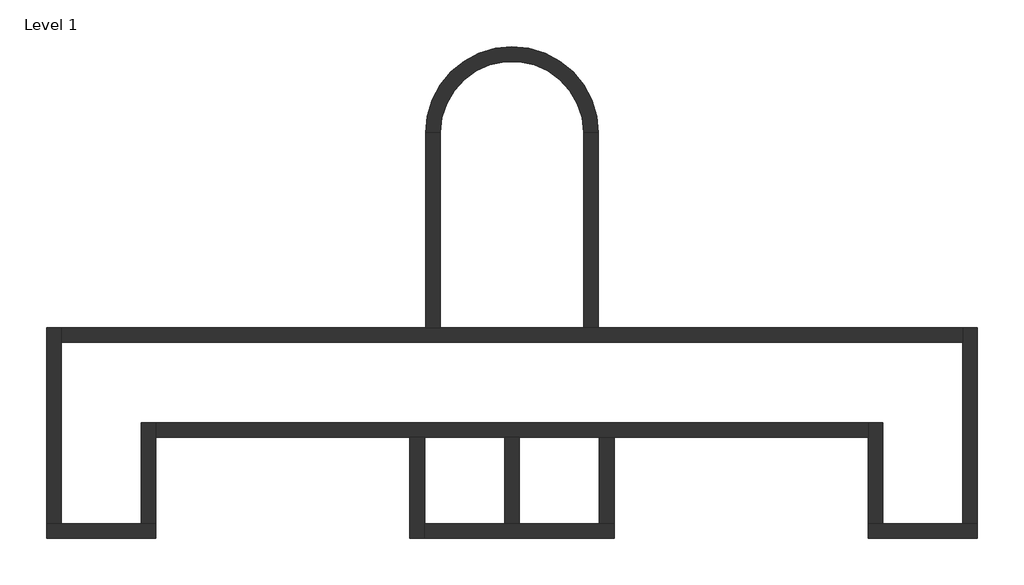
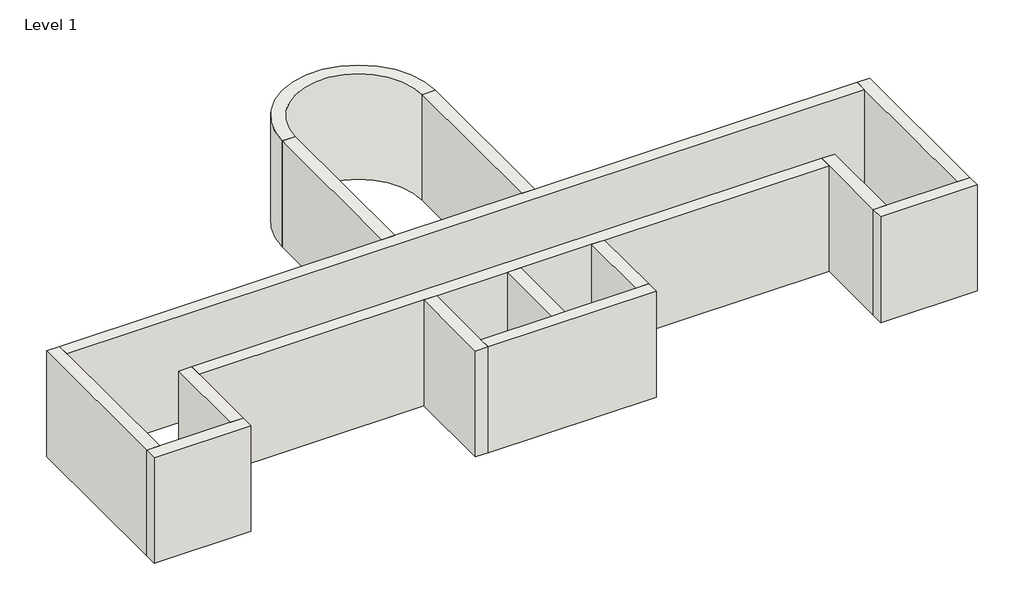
# One storey: 15 walls.
"""IFC4 building model written with IfcOpenShell, lengths in millimetres."""

import ifcopenshell
import ifcopenshell.guid

model = None  # the IFC model being written
_history = None  # IfcOwnerHistory: only IFC2X3 demands one
_inside = {}  # id of a spatial element -> (the spatial element, [elements in it])
_under = {}  # id of a project, library or spatial element -> (it, [spatial elements below it])
_declared = {}  # id of a project -> (the project, [libraries it declares])
_typed = {}  # id of a type object -> (the type object, [elements of that type])
_made_of = {}  # id of a material, layer set ... -> (it, [elements and type objects made of it])


def new_model(schema):
    """Start an empty IFC model of exactly this schema.

    Asked for "IFC4X3", IfcOpenShell would pick the latest addendum, in which some entities
    have other attributes; the version numbers below select the first issue.
    IFC2X3 requires an IfcOwnerHistory on every rooted entity: one is made here for all.
    """
    global model, _history
    if schema == "IFC4X3":
        model = ifcopenshell.file(schema_version=(4, 3, 0, 0))
    else:
        model = ifcopenshell.file(schema=schema)
    _inside.clear()
    _under.clear()
    _declared.clear()
    _typed.clear()
    _made_of.clear()
    _history = None
    if model.schema == "IFC2X3":
        org = make("IfcOrganization", Name="unknown")
        user = make(
            "IfcPersonAndOrganization",
            ThePerson=make("IfcPerson", FamilyName="unknown"),
            TheOrganization=org,
        )
        app = make(
            "IfcApplication",
            ApplicationDeveloper=org,
            Version="unknown",
            ApplicationFullName="unknown",
            ApplicationIdentifier="unknown",
        )
        _history = make(
            "IfcOwnerHistory",
            OwningUser=user,
            OwningApplication=app,
            ChangeAction="ADDED",
            CreationDate=0,
        )
    return model


def make(cls, **values):
    """One entity of the class cls with the attributes given. An attribute that is None is left unset."""
    return model.create_entity(
        cls, **{name: value for name, value in values.items() if value is not None}
    )


def rooted(cls, **values):
    """An entity with a GlobalId (a new one), such as an element, a storey or a relation."""
    return make(cls, GlobalId=ifcopenshell.guid.new(), OwnerHistory=_history, **values)


def si_unit(unit_type, name, prefix=None):
    """IfcSIUnit, for example si_unit("LENGTHUNIT", "METRE", prefix="MILLI")."""
    return make("IfcSIUnit", UnitType=unit_type, Prefix=prefix, Name=name)


def assignment(units):
    """IfcUnitAssignment: the units of a project."""
    return None if units is None else make("IfcUnitAssignment", Units=units)


def point(xyz):
    """IfcCartesianPoint."""
    return None if xyz is None else make("IfcCartesianPoint", Coordinates=xyz)


def direction(xyz):
    """IfcDirection."""
    return None if xyz is None else make("IfcDirection", DirectionRatios=xyz)


def frame(location, z_axis=None, x_axis=None):
    """IfcAxis2Placement3D, a coordinate frame: its origin and axes. An axis left out is left unset."""
    return make(
        "IfcAxis2Placement3D",
        Location=point(location),
        Axis=direction(z_axis),
        RefDirection=direction(x_axis),
    )


def frame_2d(location, x_axis=None):
    """IfcAxis2Placement2D, a coordinate frame in the plane: its origin and x axis."""
    return make(
        "IfcAxis2Placement2D", Location=point(location), RefDirection=direction(x_axis)
    )


def origin():
    """The frame at (0, 0, 0) with its axes left unset."""
    return frame((0.0, 0.0, 0.0))


def origin_with_axes():
    """The frame at (0, 0, 0) with the z axis (0, 0, 1) and the x axis (1, 0, 0) written out."""
    return frame((0.0, 0.0, 0.0), z_axis=(0.0, 0.0, 1.0), x_axis=(1.0, 0.0, 0.0))


def place(relative_to, where):
    """IfcLocalPlacement: puts the frame where relative to a parent placement (None: the world)."""
    return make(
        "IfcLocalPlacement", PlacementRelTo=relative_to, RelativePlacement=where
    )


def context(
    kind, dimensions, precision=None, world=None, true_north=None, identifier=None
):
    """IfcGeometricRepresentationContext, for example the 3D "Model" context."""
    return make(
        "IfcGeometricRepresentationContext",
        ContextIdentifier=identifier,
        ContextType=kind,
        CoordinateSpaceDimension=dimensions,
        Precision=precision,
        WorldCoordinateSystem=world,
        TrueNorth=true_north,
    )


def project(units=None, contexts=None):
    """IfcProject with its units and contexts."""
    return rooted(
        "IfcProject",
        Name="project",
        RepresentationContexts=contexts,
        UnitsInContext=assignment(units),
    )


def spatial(cls, under=None, at=None, **own):
    """A site, building, storey or space (cls), placed at a placement, below another one or the project."""
    s = rooted(cls, ObjectPlacement=at, **own)
    if under is not None:
        _under.setdefault(under.id(), (under, []))[1].append(s)
    return s


def polyline(points):
    """IfcPolyline through the points."""
    return make("IfcPolyline", Points=[point(p) for p in points])


def circle_curve(where, radius):
    """IfcCircle in the frame where."""
    return make("IfcCircle", Position=where, Radius=radius)


def trimmed(basis, trim1, trim2, sense, master):
    """IfcTrimmedCurve: the piece of a basis curve between two trims."""
    return make(
        "IfcTrimmedCurve",
        BasisCurve=basis,
        Trim1=trim1,
        Trim2=trim2,
        SenseAgreement=sense,
        MasterRepresentation=master,
    )


def segment(curve, same_sense, transition):
    """IfcCompositeCurveSegment."""
    return make(
        "IfcCompositeCurveSegment",
        Transition=transition,
        SameSense=same_sense,
        ParentCurve=curve,
    )


def composite_curve(segments, self_intersect=None):
    """IfcCompositeCurve: segments joined end to end."""
    return make("IfcCompositeCurve", Segments=segments, SelfIntersect=self_intersect)


def outline(outer, holes=None, kind="AREA"):
    """IfcArbitraryClosedProfileDef: a profile drawn as a closed curve; with holes, ...WithVoids."""
    if holes is None:
        return make("IfcArbitraryClosedProfileDef", ProfileType=kind, OuterCurve=outer)
    return make(
        "IfcArbitraryProfileDefWithVoids",
        ProfileType=kind,
        OuterCurve=outer,
        InnerCurves=holes,
    )


def extrude(swept, where, along, depth):
    """IfcExtrudedAreaSolid: the profile swept, set in the frame where, extruded along a direction by depth."""
    return make(
        "IfcExtrudedAreaSolid",
        SweptArea=swept,
        Position=where,
        ExtrudedDirection=direction(along),
        Depth=depth,
    )


def faces_of(points, faces, orient=None, outer=None):
    """IfcFace entities. A face is a list of loops; a loop is a list of indices into points, from 0.

    orient and outer hold one flag for each loop. By default every Orientation is true, the
    first loop of a face is its IfcFaceOuterBound and the others are IfcFaceBound.
    """
    made = []
    for i, loops in enumerate(faces):
        bounds = []
        for j, loop in enumerate(loops):
            is_outer = j == 0 if outer is None else outer[i][j]
            bounds.append(
                make(
                    "IfcFaceOuterBound" if is_outer else "IfcFaceBound",
                    Bound=make("IfcPolyLoop", Polygon=[points[k] for k in loop]),
                    Orientation=True if orient is None else orient[i][j],
                )
            )
        made.append(make("IfcFace", Bounds=bounds))
    return made


def faceted_brep(points, faces, orient=None, outer=None, voids=None):
    """IfcFacetedBrep: a solid bounded by flat faces; with voids (closed shells), ...WithVoids."""
    shared = [point(p) for p in points]
    hull = make("IfcClosedShell", CfsFaces=faces_of(shared, faces, orient, outer))
    if voids is None:
        return make("IfcFacetedBrep", Outer=hull)
    return make(
        "IfcFacetedBrepWithVoids",
        Outer=hull,
        Voids=[
            make(cls, CfsFaces=faces_of(shared, fs, o, b)) for cls, fs, o, b in voids
        ],
    )


def shape(context_of_items, identifier, shape_type, items):
    """IfcShapeRepresentation: the items that make up one representation, for example the "Body"."""
    return make(
        "IfcShapeRepresentation",
        ContextOfItems=context_of_items,
        RepresentationIdentifier=identifier,
        RepresentationType=shape_type,
        Items=items,
    )


def made_of(thing, what):
    """Note that an element or type object is made of a material, layer set ...; save() writes the relation."""
    if what is not None:
        _made_of.setdefault(what.id(), (what, []))[1].append(thing)
    return thing


def element(
    cls,
    number,
    at=None,
    inside=None,
    cuts=None,
    type_object=None,
    material=None,
    context=None,
    identifier="Body",
    shape_type=None,
    held_by="IfcProductDefinitionShape",
    body=None,
    shapes=None,
    **own,
):
    """One element of the class cls, such as IfcWall. Its Tag is "e" and its number.

    at: its placement. inside: the storey or other place that contains it. cuts: it is an
    opening in that element (IfcRelVoidsElement). A single representation is given by context,
    identifier, shape_type and body (its items); several are given by shapes. held_by: the class
    of the entity that holds the representations. save() writes the other relations.
    """
    e = rooted(cls, Tag="e%d" % number, ObjectPlacement=at, **own)
    if body is not None:
        shapes = [shape(context, identifier, shape_type, body)]
    if shapes is not None:
        e.Representation = make(held_by, Representations=shapes)
    if inside is not None:
        _inside.setdefault(inside.id(), (inside, []))[1].append(e)
    if cuts is not None:
        rooted(
            "IfcRelVoidsElement", RelatingBuildingElement=cuts, RelatedOpeningElement=e
        )
    if type_object is not None:
        _typed.setdefault(type_object.id(), (type_object, []))[1].append(e)
    return made_of(e, material)


def aggregate(whole, parts):
    """IfcRelAggregates: a whole, such as a stair, and the parts it consists of."""
    return rooted("IfcRelAggregates", RelatingObject=whole, RelatedObjects=parts)


def save(model, path):
    """Write the relations noted so far, then the file.

    IfcRelAggregates (storeys below a building ...), IfcRelContainedInSpatialStructure (elements
    in a storey), IfcRelDefinesByType, IfcRelAssociatesMaterial and IfcRelDeclares: one each for
    every whole, place, type object, material and project.
    """
    for whole, parts in _under.values():
        aggregate(whole, parts)
    for where, things in _inside.values():
        rooted(
            "IfcRelContainedInSpatialStructure",
            RelatedElements=things,
            RelatingStructure=where,
        )
    for kind, things in _typed.values():
        rooted("IfcRelDefinesByType", RelatedObjects=things, RelatingType=kind)
    for what, things in _made_of.values():
        rooted("IfcRelAssociatesMaterial", RelatedObjects=things, RelatingMaterial=what)
    for by, libraries in _declared.values():
        rooted("IfcRelDeclares", RelatingContext=by, RelatedDefinitions=libraries)
    model.write(path)


model = new_model("IFC4")

# Units and contexts
model_context = context("Model", 3, world=origin())
ifc_project = project(units=[si_unit("LENGTHUNIT", "METRE", prefix="MILLI")], contexts=[model_context])

# Site, building, storey
site = spatial("IfcSite", under=ifc_project)
building = spatial("IfcBuilding", under=site)
storey = spatial("IfcBuildingStorey", under=building, Name="Level 1", Elevation=0.0)

# Walls
placement = place(None, origin())
element("IfcWall", 1, ObjectType="Exterior - Brick on Mtl. Stud", at=placement, inside=storey, context=model_context, shape_type="Brep", body=[
    faceted_brep([(-8707.8274687, 2253.7633812, 0.0), (-8707.8274687, -184.6366188, 0.0), (-8707.8274687, -184.6366188, 3048.0), (-8707.8274687, 2253.7633812, 3048.0), (-8355.4024687, 2253.7633812, 0.0), (-8355.4024687, 2253.7633812, 3048.0), (-8355.4024687, 167.7883812, 3048.0), (-8355.4024687, -184.6366188, 3048.0), (-8355.4024687, -184.6366188, 0.0), (-8355.4024687, 167.7883812, 0.0)], [[[0, 1, 2, 3]], [[4, 5, 6, 7, 8, 9]], [[1, 0, 4, 9, 8]], [[3, 2, 7, 6, 5]], [[2, 1, 8, 7]], [[0, 3, 5, 4]]]),
])
element("IfcWall", 2, ObjectType="Exterior - Brick on Mtl. Stud", at=placement, inside=storey, context=model_context, shape_type="Brep", body=[
    faceted_brep([(-8355.4024687, -184.6366188, 0.0), (-3783.4024687, -184.6366188, 0.0), (-3783.4024687, -184.6366188, 3048.0), (-8355.4024687, -184.6366188, 3048.0), (-8355.4024687, 167.7883812, 0.0), (-8355.4024687, 167.7883812, 3048.0), (-6421.8274687, 167.7883812, 3048.0), (-6069.4024687, 167.7883812, 3048.0), (-4135.8274687, 167.7883812, 3048.0), (-3783.4024687, 167.7883812, 3048.0), (-3783.4024687, 167.7883812, 0.0), (-4135.8274687, 167.7883812, 0.0), (-6069.4024687, 167.7883812, 0.0), (-6421.8274687, 167.7883812, 0.0)], [[[0, 1, 2, 3]], [[4, 5, 6, 7, 8, 9, 10, 11, 12, 13]], [[1, 0, 4, 13, 12, 11, 10]], [[3, 2, 9, 8, 7, 6, 5]], [[2, 1, 10, 9]], [[0, 3, 5, 4]]]),
])
element("IfcWall", 3, ObjectType="Exterior - Brick on Mtl. Stud", at=placement, inside=storey, context=model_context, shape_type="SweptSolid", body=[
    extrude(outline(polyline([(-3783.4024687, 2253.7633812), (-3783.4024687, 167.7883812), (-4135.8274687, 167.7883812), (-4135.8274687, 2253.7633812), (-3783.4024687, 2253.7633812)])), origin_with_axes(), (0.0, 0.0, 1.0), 3048.0),
])
element("IfcWall", 4, ObjectType="Exterior - Brick on Mtl. Stud", at=placement, inside=storey, context=model_context, shape_type="Brep", body=[
    faceted_brep([(-14832.4024687, 2253.7633812, 0.0), (-8707.8274687, 2253.7633812, 0.0), (-8355.4024687, 2253.7633812, 0.0), (-6421.8274687, 2253.7633812, 0.0), (-6069.4024687, 2253.7633812, 0.0), (-4135.8274687, 2253.7633812, 0.0), (-3783.4024687, 2253.7633812, 0.0), (2341.1725313, 2253.7633812, 0.0), (2341.1725313, 2253.7633812, 3048.0), (-3783.4024687, 2253.7633812, 3048.0), (-4135.8274687, 2253.7633812, 3048.0), (-6069.4024687, 2253.7633812, 3048.0), (-6421.8274687, 2253.7633812, 3048.0), (-8355.4024687, 2253.7633812, 3048.0), (-8707.8274687, 2253.7633812, 3048.0), (-14832.4024687, 2253.7633812, 3048.0), (-14832.4024687, 2606.1883812, 0.0), (-14832.4024687, 2606.1883812, 3048.0), (2341.1725313, 2606.1883812, 3048.0), (2341.1725313, 2606.1883812, 0.0)], [[[0, 1, 2, 3, 4, 5, 6, 7, 8, 9, 10, 11, 12, 13, 14, 15]], [[16, 17, 18, 19]], [[7, 6, 5, 4, 3, 2, 1, 0, 16, 19]], [[15, 14, 13, 12, 11, 10, 9, 8, 18, 17]], [[8, 7, 19, 18]], [[0, 15, 17, 16]]]),
])
element("IfcWall", 5, ObjectType="Exterior - Brick on Mtl. Stud", at=placement, inside=storey, context=model_context, shape_type="SweptSolid", body=[
    extrude(outline(polyline([(-7974.4024687, 9592.7758812), (-7974.4024687, 4892.1883812), (-8326.8274687, 4892.1883812), (-8326.8274687, 9592.7758812), (-7974.4024687, 9592.7758812)])), origin_with_axes(), (0.0, 0.0, 1.0), 3048.0),
])
element("IfcWall", 6, ObjectType="Exterior - Brick on Mtl. Stud", at=placement, inside=storey, context=model_context, shape_type="Brep", body=[
    faceted_brep([(4627.1725313, 4892.1883812, 0.0), (-4164.4024687, 4892.1883812, 0.0), (-4516.8274687, 4892.1883812, 0.0), (-7974.4024687, 4892.1883812, 0.0), (-8326.8274687, 4892.1883812, 0.0), (-17118.4024687, 4892.1883812, 0.0), (-17118.4024687, 4892.1883812, 3048.0), (-8326.8274687, 4892.1883812, 3048.0), (-7974.4024687, 4892.1883812, 3048.0), (-4516.8274687, 4892.1883812, 3048.0), (-4164.4024687, 4892.1883812, 3048.0), (4627.1725313, 4892.1883812, 3048.0), (4627.1725313, 4539.7633812, 0.0), (4627.1725313, 4539.7633812, 3048.0), (-17118.4024687, 4539.7633812, 3048.0), (-17118.4024687, 4539.7633812, 0.0)], [[[0, 1, 2, 3, 4, 5, 6, 7, 8, 9, 10, 11]], [[12, 13, 14, 15]], [[5, 4, 3, 2, 1, 0, 12, 15]], [[11, 10, 9, 8, 7, 6, 14, 13]], [[0, 11, 13, 12]], [[6, 5, 15, 14]]]),
])
element("IfcWall", 7, ObjectType="Exterior - Brick on Mtl. Stud", at=placement, inside=storey, context=model_context, shape_type="SweptSolid", body=[
    extrude(outline(polyline([(-4164.4024687, 9592.7758812), (-4164.4024687, 4892.1883812), (-4516.8274687, 4892.1883812), (-4516.8274687, 9592.7758812), (-4164.4024687, 9592.7758812)])), origin_with_axes(), (0.0, 0.0, 1.0), 3048.0),
])
element("IfcWall", 8, ObjectType="Exterior - Brick on Mtl. Stud", at=placement, inside=storey, context=model_context, shape_type="SweptSolid", body=[
    extrude(outline(composite_curve([segment(polyline([(-4164.4024687, 9592.7758812), (-4516.8274687, 9592.7758812)]), True, "CONTINUOUS"), segment(trimmed(circle_curve(frame_2d((-6245.6149687, 9592.7758812)), 1728.7875), [point((-4516.8274687, 9592.7758812))], [point((-7974.4024687, 9592.7758812))], True, "CARTESIAN"), True, "CONTINUOUS"), segment(polyline([(-7974.4024687, 9592.7758812), (-8326.8274687, 9592.7758812)]), True, "CONTINUOUS"), segment(trimmed(circle_curve(frame_2d((-6245.6149687, 9592.7758812)), 2081.2125), [point((-8326.8274687, 9592.7758812))], [point((-4164.4024687, 9592.7758812))], False, "CARTESIAN"), True, "CONTINUOUS")], self_intersect=False)), origin_with_axes(), (0.0, 0.0, 1.0), 3048.0),
])
element("IfcWall", 9, ObjectType="Exterior - Brick on Mtl. Stud", at=placement, inside=storey, context=model_context, shape_type="SweptSolid", body=[
    extrude(outline(polyline([(-6069.4024687, 2253.7633812), (-6069.4024687, 167.7883812), (-6421.8274687, 167.7883812), (-6421.8274687, 2253.7633812), (-6069.4024687, 2253.7633812)])), origin_with_axes(), (0.0, 0.0, 1.0), 3048.0),
])
element("IfcWall", 10, ObjectType="Exterior - Brick on Mtl. Stud", at=placement, inside=storey, context=model_context, shape_type="Brep", body=[
    faceted_brep([(4979.5975313, 167.7883812, 0.0), (4627.1725313, 167.7883812, 0.0), (2693.5975313, 167.7883812, 0.0), (2341.1725313, 167.7883812, 0.0), (2341.1725313, 167.7883812, 3048.0), (2693.5975313, 167.7883812, 3048.0), (4627.1725313, 167.7883812, 3048.0), (4979.5975313, 167.7883812, 3048.0), (4979.5975313, -184.6366188, 0.0), (4979.5975313, -184.6366188, 3048.0), (2341.1725313, -184.6366188, 3048.0), (2341.1725313, -184.6366188, 0.0)], [[[0, 1, 2, 3, 4, 5, 6, 7]], [[8, 9, 10, 11]], [[3, 2, 1, 0, 8, 11]], [[7, 6, 5, 4, 10, 9]], [[4, 3, 11, 10]], [[0, 7, 9, 8]]]),
])
element("IfcWall", 11, ObjectType="Exterior - Brick on Mtl. Stud", at=placement, inside=storey, context=model_context, shape_type="Brep", body=[
    faceted_brep([(2341.1725313, 2606.1883812, 0.0), (2341.1725313, 2253.7633812, 0.0), (2341.1725313, 167.7883812, 0.0), (2341.1725313, 167.7883812, 3048.0), (2341.1725313, 2253.7633812, 3048.0), (2341.1725313, 2606.1883812, 3048.0), (2693.5975313, 2606.1883812, 0.0), (2693.5975313, 2606.1883812, 3048.0), (2693.5975313, 167.7883812, 3048.0), (2693.5975313, 167.7883812, 0.0)], [[[0, 1, 2, 3, 4, 5]], [[6, 7, 8, 9]], [[2, 1, 0, 6, 9]], [[5, 4, 3, 8, 7]], [[0, 5, 7, 6]], [[3, 2, 9, 8]]]),
])
element("IfcWall", 12, ObjectType="Exterior - Brick on Mtl. Stud", at=placement, inside=storey, context=model_context, shape_type="Brep", body=[
    faceted_brep([(4979.5975313, 167.7883812, 0.0), (4979.5975313, 4892.1883812, 0.0), (4979.5975313, 4892.1883812, 3048.0), (4979.5975313, 167.7883812, 3048.0), (4627.1725313, 167.7883812, 0.0), (4627.1725313, 167.7883812, 3048.0), (4627.1725313, 4539.7633812, 3048.0), (4627.1725313, 4892.1883812, 3048.0), (4627.1725313, 4892.1883812, 0.0), (4627.1725313, 4539.7633812, 0.0)], [[[0, 1, 2, 3]], [[4, 5, 6, 7, 8, 9]], [[1, 0, 4, 9, 8]], [[3, 2, 7, 6, 5]], [[2, 1, 8, 7]], [[0, 3, 5, 4]]]),
])
element("IfcWall", 13, ObjectType="Exterior - Brick on Mtl. Stud", at=placement, inside=storey, context=model_context, shape_type="Brep", body=[
    faceted_brep([(-17470.8274687, -184.6366188, 0.0), (-14832.4024687, -184.6366188, 0.0), (-14832.4024687, -184.6366188, 3048.0), (-17470.8274687, -184.6366188, 3048.0), (-17470.8274687, 167.7883812, 0.0), (-17470.8274687, 167.7883812, 3048.0), (-17118.4024687, 167.7883812, 3048.0), (-15184.8274687, 167.7883812, 3048.0), (-14832.4024687, 167.7883812, 3048.0), (-14832.4024687, 167.7883812, 0.0), (-15184.8274687, 167.7883812, 0.0), (-17118.4024687, 167.7883812, 0.0)], [[[0, 1, 2, 3]], [[4, 5, 6, 7, 8, 9, 10, 11]], [[1, 0, 4, 11, 10, 9]], [[3, 2, 8, 7, 6, 5]], [[2, 1, 9, 8]], [[0, 3, 5, 4]]]),
])
element("IfcWall", 14, ObjectType="Exterior - Brick on Mtl. Stud", at=placement, inside=storey, context=model_context, shape_type="Brep", body=[
    faceted_brep([(-15184.8274687, 2606.1883812, 0.0), (-15184.8274687, 167.7883812, 0.0), (-15184.8274687, 167.7883812, 3048.0), (-15184.8274687, 2606.1883812, 3048.0), (-14832.4024687, 2606.1883812, 0.0), (-14832.4024687, 2606.1883812, 3048.0), (-14832.4024687, 2253.7633812, 3048.0), (-14832.4024687, 167.7883812, 3048.0), (-14832.4024687, 167.7883812, 0.0), (-14832.4024687, 2253.7633812, 0.0)], [[[0, 1, 2, 3]], [[4, 5, 6, 7, 8, 9]], [[1, 0, 4, 9, 8]], [[3, 2, 7, 6, 5]], [[0, 3, 5, 4]], [[2, 1, 8, 7]]]),
])
element("IfcWall", 15, ObjectType="Exterior - Brick on Mtl. Stud", at=placement, inside=storey, context=model_context, shape_type="Brep", body=[
    faceted_brep([(-17118.4024687, 167.7883812, 0.0), (-17118.4024687, 4539.7633812, 0.0), (-17118.4024687, 4892.1883812, 0.0), (-17118.4024687, 4892.1883812, 3048.0), (-17118.4024687, 4539.7633812, 3048.0), (-17118.4024687, 167.7883812, 3048.0), (-17470.8274687, 167.7883812, 0.0), (-17470.8274687, 167.7883812, 3048.0), (-17470.8274687, 4892.1883812, 3048.0), (-17470.8274687, 4892.1883812, 0.0)], [[[0, 1, 2, 3, 4, 5]], [[6, 7, 8, 9]], [[2, 1, 0, 6, 9]], [[5, 4, 3, 8, 7]], [[3, 2, 9, 8]], [[0, 5, 7, 6]]]),
])

save(model, "model.ifc")
